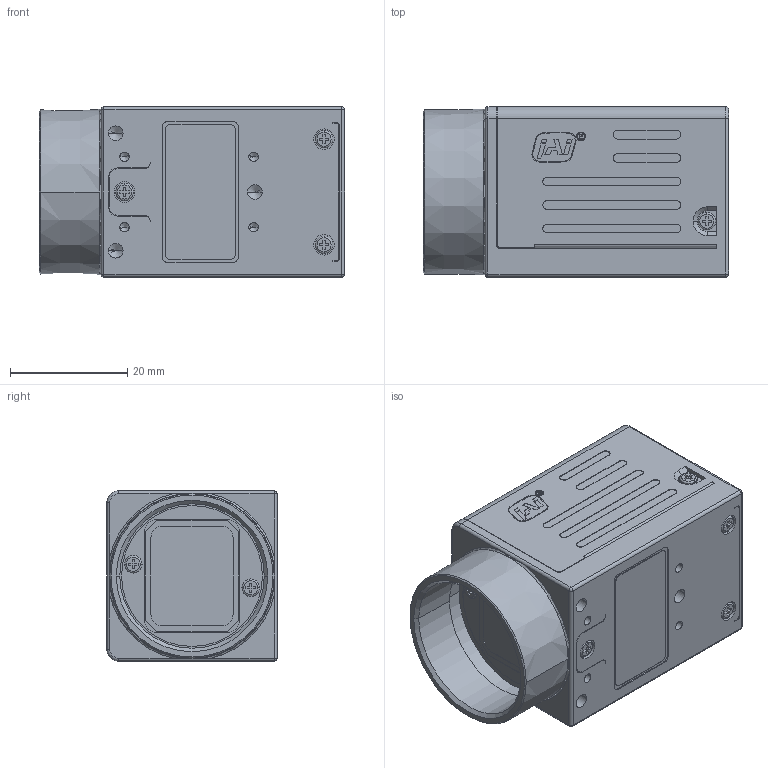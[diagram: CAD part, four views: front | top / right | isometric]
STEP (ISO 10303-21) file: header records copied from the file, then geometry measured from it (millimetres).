
FILE_DESCRIPTION((''),'2;1');
FILE_NAME('GO-5000M-PMCL','2014-08-19T',('aso'),(''),'PRO/ENGINEER BY PARAMETRIC TECHNOLOGY CORPORATION, 2012310','PRO/ENGINEER BY PARAMETRIC TECHNOLOGY CORPORATION, 2012310','');
FILE_SCHEMA(('CONFIG_CONTROL_DESIGN'));
Products named in the file (1): GO-5000M-PMCL
Bounding box: 52 x 29 x 29.1 mm (x, y, z)
Volume: 12265.5 mm3; surface area: 18441.1 mm2
Topology: 1 solids, 20 shells, 3343 faces, 9352 edges, 6020 vertices
Faces by surface type: plane 2243, cylinder 854, cone 98, torus 93, sphere 33, bspline 22
Entity records: 107246 total; most frequent: CARTESIAN_POINT 20436, ORIENTED_EDGE 18558, DIRECTION 17562, EDGE_CURVE 9279, VECTOR 6922, LINE 6922, VERTEX_POINT 6020, AXIS2_PLACEMENT_3D 5320
